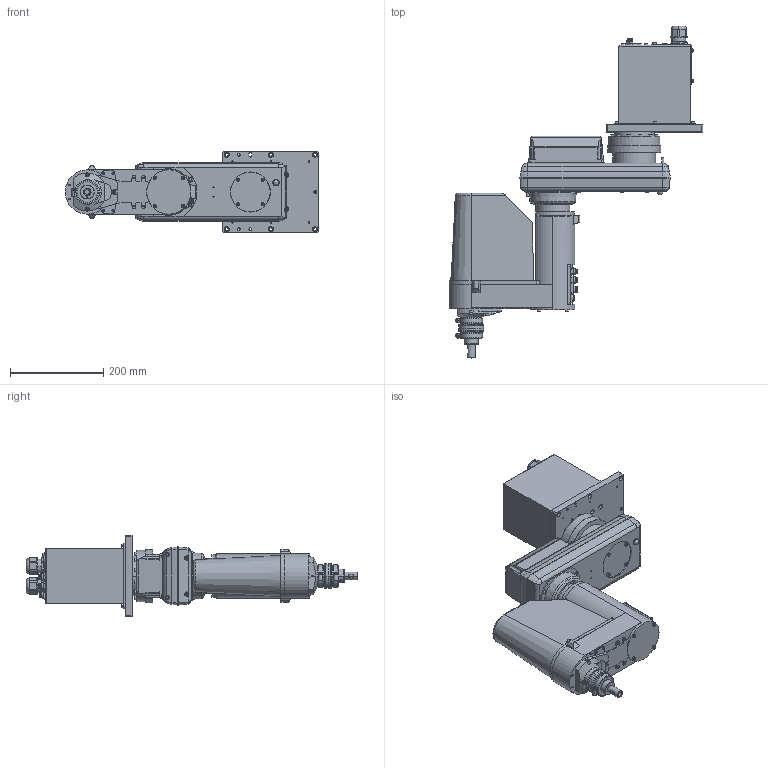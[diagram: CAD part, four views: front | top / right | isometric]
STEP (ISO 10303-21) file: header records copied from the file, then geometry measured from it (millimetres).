
FILE_DESCRIPTION( ( '' ), '1' );
FILE_NAME( '//expscmdclustefs.cadenas.external/client_exchange/iodir/jobs/output/wkb51537139_no0/STEP/RS3_351C_2_14b.stp', '2012-11-23T09:47:00', ( '' ), ( '' ), ' ', ' ', ' ' );
FILE_SCHEMA( ( 'automotive_design' ) );
Length unit declared in the file: millimetre
Products named in the file (6): 1; 2; 3; 4; 5; 6
Bounding box: 544.5 x 712.5 x 175 mm (x, y, z)
Volume: 12512619.6 mm3; surface area: 686837.8 mm2
Topology: 6 solids, 6 shells, 2023 faces, 4940 edges, 3171 vertices
Faces by surface type: plane 1023, cylinder 578, cone 271, torus 150, sphere 1
Entity records: 117587 total; most frequent: CARTESIAN_POINT 11737, DIRECTION 10821, STYLED_ITEM 10108, PRESENTATION_STYLE_ASSIGNMENT 10108, COLOUR_RGB 10108, ORIENTED_EDGE 9816, EDGE_CURVE 4908, CURVE_STYLE 4908
